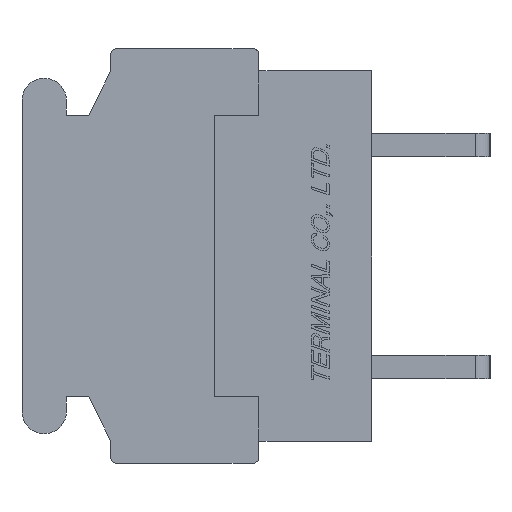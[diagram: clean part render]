
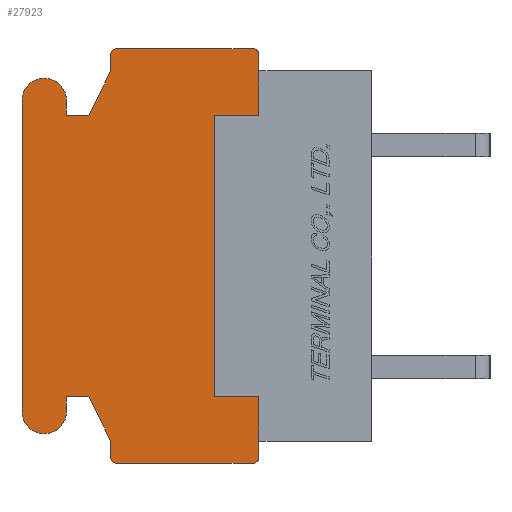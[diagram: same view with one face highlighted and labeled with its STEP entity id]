
A CAD part, left-side view. The second image highlights one B-rep face of the part: STEP entity #27923.
In plain terms, the highlighted planar face has unit normal (-1, 0, 0).
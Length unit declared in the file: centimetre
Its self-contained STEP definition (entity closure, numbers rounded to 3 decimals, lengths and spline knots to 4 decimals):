
#1438=CIRCLE('',#46985,0.02);
#1439=CIRCLE('',#46989,0.02);
#1440=CIRCLE('',#46992,0.02);
#1441=CIRCLE('',#46998,0.075);
#1442=CIRCLE('',#47001,0.075);
#1443=CIRCLE('',#47007,0.02);
#3882=VERTEX_POINT('',#43552);
#3883=VERTEX_POINT('',#43554);
#3884=VERTEX_POINT('',#43558);
#3885=VERTEX_POINT('',#43562);
#3886=VERTEX_POINT('',#43564);
#3887=VERTEX_POINT('',#43568);
#3888=VERTEX_POINT('',#43572);
#3889=VERTEX_POINT('',#43576);
#3890=VERTEX_POINT('',#43580);
#3891=VERTEX_POINT('',#43584);
#3892=VERTEX_POINT('',#43588);
#3893=VERTEX_POINT('',#43592);
#3894=VERTEX_POINT('',#43596);
#3895=VERTEX_POINT('',#43600);
#3896=VERTEX_POINT('',#43604);
#3897=VERTEX_POINT('',#43608);
#3898=VERTEX_POINT('',#43612);
#3899=VERTEX_POINT('',#43616);
#3900=VERTEX_POINT('',#43620);
#3901=VERTEX_POINT('',#43624);
#3902=VERTEX_POINT('',#43630);
#3903=VERTEX_POINT('',#43632);
#3904=VERTEX_POINT('',#43634);
#3905=VERTEX_POINT('',#43636);
#6900=VECTOR('',#34615,1.);
#6902=VECTOR('',#34618,1.);
#6906=VECTOR('',#34627,1.);
#6909=VECTOR('',#34635,1.);
#6911=VECTOR('',#34638,1.);
#6913=VECTOR('',#34641,1.);
#6915=VECTOR('',#34644,1.);
#6918=VECTOR('',#34652,1.);
#6921=VECTOR('',#34660,1.);
#6923=VECTOR('',#34663,1.);
#6925=VECTOR('',#34666,1.);
#6927=VECTOR('',#34669,1.);
#6929=VECTOR('',#34676,1.);
#6930=VECTOR('',#34678,1.);
#6931=VECTOR('',#34679,1.);
#6932=VECTOR('',#34680,1.);
#6933=VECTOR('',#34681,1.);
#6934=VECTOR('',#34682,1.);
#9996=LINE('',#43559,#6900);
#9998=LINE('',#43563,#6902);
#10002=LINE('',#43573,#6906);
#10005=LINE('',#43581,#6909);
#10007=LINE('',#43585,#6911);
#10009=LINE('',#43589,#6913);
#10011=LINE('',#43593,#6915);
#10014=LINE('',#43601,#6918);
#10017=LINE('',#43609,#6921);
#10019=LINE('',#43613,#6923);
#10021=LINE('',#43617,#6925);
#10023=LINE('',#43621,#6927);
#10025=LINE('',#43627,#6929);
#10026=LINE('',#43629,#6930);
#10027=LINE('',#43631,#6931);
#10028=LINE('',#43633,#6932);
#10029=LINE('',#43635,#6933);
#10030=LINE('',#43637,#6934);
#14120=EDGE_CURVE('',#3882,#3883,#1438,.T.);
#14123=EDGE_CURVE('',#3884,#3882,#9996,.T.);
#14125=EDGE_CURVE('',#3885,#3886,#9998,.T.);
#14128=EDGE_CURVE('',#3887,#3885,#1439,.T.);
#14130=EDGE_CURVE('',#3888,#3887,#10002,.T.);
#14132=EDGE_CURVE('',#3889,#3888,#1440,.T.);
#14134=EDGE_CURVE('',#3890,#3889,#10005,.T.);
#14136=EDGE_CURVE('',#3891,#3890,#10007,.T.);
#14138=EDGE_CURVE('',#3892,#3891,#10009,.T.);
#14140=EDGE_CURVE('',#3893,#3892,#10011,.T.);
#14142=EDGE_CURVE('',#3894,#3893,#1441,.T.);
#14144=EDGE_CURVE('',#3895,#3894,#10014,.T.);
#14146=EDGE_CURVE('',#3896,#3895,#1442,.T.);
#14148=EDGE_CURVE('',#3897,#3896,#10017,.T.);
#14150=EDGE_CURVE('',#3898,#3897,#10019,.T.);
#14152=EDGE_CURVE('',#3899,#3898,#10021,.T.);
#14154=EDGE_CURVE('',#3900,#3899,#10023,.T.);
#14156=EDGE_CURVE('',#3901,#3900,#1443,.T.);
#14157=EDGE_CURVE('',#3883,#3901,#10025,.T.);
#14158=EDGE_CURVE('',#3902,#3886,#10026,.T.);
#14159=EDGE_CURVE('',#3884,#3903,#10027,.T.);
#14160=EDGE_CURVE('',#3903,#3904,#10028,.T.);
#14161=EDGE_CURVE('',#3904,#3905,#10029,.T.);
#14162=EDGE_CURVE('',#3905,#3902,#10030,.T.);
#21974=ORIENTED_EDGE('',*,*,#14158,.T.);
#21975=ORIENTED_EDGE('',*,*,#14125,.F.);
#21976=ORIENTED_EDGE('',*,*,#14128,.F.);
#21977=ORIENTED_EDGE('',*,*,#14130,.F.);
#21978=ORIENTED_EDGE('',*,*,#14132,.F.);
#21979=ORIENTED_EDGE('',*,*,#14134,.F.);
#21980=ORIENTED_EDGE('',*,*,#14136,.F.);
#21981=ORIENTED_EDGE('',*,*,#14138,.F.);
#21982=ORIENTED_EDGE('',*,*,#14140,.F.);
#21983=ORIENTED_EDGE('',*,*,#14142,.F.);
#21984=ORIENTED_EDGE('',*,*,#14144,.F.);
#21985=ORIENTED_EDGE('',*,*,#14146,.F.);
#21986=ORIENTED_EDGE('',*,*,#14148,.F.);
#21987=ORIENTED_EDGE('',*,*,#14150,.F.);
#21988=ORIENTED_EDGE('',*,*,#14152,.F.);
#21989=ORIENTED_EDGE('',*,*,#14154,.F.);
#21990=ORIENTED_EDGE('',*,*,#14156,.F.);
#21991=ORIENTED_EDGE('',*,*,#14157,.F.);
#21992=ORIENTED_EDGE('',*,*,#14120,.F.);
#21993=ORIENTED_EDGE('',*,*,#14123,.F.);
#21994=ORIENTED_EDGE('',*,*,#14159,.T.);
#21995=ORIENTED_EDGE('',*,*,#14160,.T.);
#21996=ORIENTED_EDGE('',*,*,#14161,.T.);
#21997=ORIENTED_EDGE('',*,*,#14162,.T.);
#24609=EDGE_LOOP('',(#21974,#21975,#21976,#21977,#21978,#21979,#21980,#21981,
#21982,#21983,#21984,#21985,#21986,#21987,#21988,#21989,#21990,#21991,#21992,
#21993,#21994,#21995,#21996,#21997));
#26311=FACE_BOUND('',#24609,.T.);
#27923=ADVANCED_FACE('',(#26311),#29083,.F.);
#29083=PLANE('',#47009);
#34610=DIRECTION('',(1.,0.,0.));
#34611=DIRECTION('',(0.,0.,-0.02));
#34615=DIRECTION('',(0.,0.,-1.));
#34618=DIRECTION('',(0.,0.,-1.));
#34623=DIRECTION('',(1.,0.,0.));
#34624=DIRECTION('',(0.,0.,-0.02));
#34627=DIRECTION('',(0.,-1.,0.));
#34631=DIRECTION('',(1.,0.,0.));
#34632=DIRECTION('',(0.,0.,-0.02));
#34635=DIRECTION('',(0.,0.,1.));
#34638=DIRECTION('',(0.,-0.447,0.894));
#34641=DIRECTION('',(0.,-1.,0.));
#34644=DIRECTION('',(0.,0.,-1.));
#34648=DIRECTION('',(1.,0.,0.));
#34649=DIRECTION('',(0.,0.,-0.075));
#34652=DIRECTION('',(0.,0.,1.));
#34656=DIRECTION('',(1.,0.,0.));
#34657=DIRECTION('',(0.,0.,-0.075));
#34660=DIRECTION('',(0.,0.,-1.));
#34663=DIRECTION('',(0.,1.,0.));
#34666=DIRECTION('',(0.,0.447,0.894));
#34669=DIRECTION('',(0.,0.,1.));
#34673=DIRECTION('',(1.,0.,0.));
#34674=DIRECTION('',(0.,0.,-0.02));
#34676=DIRECTION('',(0.,1.,0.));
#34677=DIRECTION('',(1.,0.,0.));
#34678=DIRECTION('',(0.,0.,1.));
#34679=DIRECTION('',(0.,0.,1.));
#34680=DIRECTION('',(0.,1.,0.));
#34681=DIRECTION('',(0.,0.,1.));
#34682=DIRECTION('',(0.,-1.,0.));
#43552=CARTESIAN_POINT('',(-0.762,0.38,-0.68));
#43553=CARTESIAN_POINT('',(-0.762,0.4,-0.68));
#43554=CARTESIAN_POINT('',(-0.762,0.4,-0.7));
#43558=CARTESIAN_POINT('',(-0.762,0.38,-0.625));
#43559=CARTESIAN_POINT('',(-0.762,0.38,-0.625));
#43562=CARTESIAN_POINT('',(-0.762,0.38,0.68));
#43563=CARTESIAN_POINT('',(-0.762,0.38,0.68));
#43564=CARTESIAN_POINT('',(-0.762,0.38,0.625));
#43568=CARTESIAN_POINT('',(-0.762,0.4,0.7));
#43569=CARTESIAN_POINT('',(-0.762,0.4,0.68));
#43572=CARTESIAN_POINT('',(-0.762,0.86,0.7));
#43573=CARTESIAN_POINT('',(-0.762,0.86,0.7));
#43576=CARTESIAN_POINT('',(-0.762,0.88,0.68));
#43577=CARTESIAN_POINT('',(-0.762,0.86,0.68));
#43580=CARTESIAN_POINT('',(-0.762,0.88,0.625));
#43581=CARTESIAN_POINT('',(-0.762,0.88,0.625));
#43584=CARTESIAN_POINT('',(-0.762,0.955,0.475));
#43585=CARTESIAN_POINT('',(-0.762,0.955,0.475));
#43588=CARTESIAN_POINT('',(-0.762,1.03,0.475));
#43589=CARTESIAN_POINT('',(-0.762,1.03,0.475));
#43592=CARTESIAN_POINT('',(-0.762,1.03,0.525));
#43593=CARTESIAN_POINT('',(-0.762,1.03,0.525));
#43596=CARTESIAN_POINT('',(-0.762,1.18,0.525));
#43597=CARTESIAN_POINT('',(-0.762,1.105,0.525));
#43600=CARTESIAN_POINT('',(-0.762,1.18,-0.525));
#43601=CARTESIAN_POINT('',(-0.762,1.18,-0.525));
#43604=CARTESIAN_POINT('',(-0.762,1.03,-0.525));
#43605=CARTESIAN_POINT('',(-0.762,1.105,-0.525));
#43608=CARTESIAN_POINT('',(-0.762,1.03,-0.475));
#43609=CARTESIAN_POINT('',(-0.762,1.03,-0.475));
#43612=CARTESIAN_POINT('',(-0.762,0.955,-0.475));
#43613=CARTESIAN_POINT('',(-0.762,0.955,-0.475));
#43616=CARTESIAN_POINT('',(-0.762,0.88,-0.625));
#43617=CARTESIAN_POINT('',(-0.762,0.88,-0.625));
#43620=CARTESIAN_POINT('',(-0.762,0.88,-0.68));
#43621=CARTESIAN_POINT('',(-0.762,0.88,-0.68));
#43624=CARTESIAN_POINT('',(-0.762,0.86,-0.7));
#43625=CARTESIAN_POINT('',(-0.762,0.86,-0.68));
#43627=CARTESIAN_POINT('',(-0.762,0.4,-0.7));
#43628=CARTESIAN_POINT('',(-0.762,0.6059,0.));
#43629=CARTESIAN_POINT('',(-0.762,0.38,0.475));
#43630=CARTESIAN_POINT('',(-0.762,0.38,0.475));
#43631=CARTESIAN_POINT('',(-0.762,0.38,-0.625));
#43632=CARTESIAN_POINT('',(-0.762,0.38,-0.475));
#43633=CARTESIAN_POINT('',(-0.762,0.38,-0.475));
#43634=CARTESIAN_POINT('',(-0.762,0.53,-0.475));
#43635=CARTESIAN_POINT('',(-0.762,0.53,-0.475));
#43636=CARTESIAN_POINT('',(-0.762,0.53,0.475));
#43637=CARTESIAN_POINT('',(-0.762,0.53,0.475));
#46985=AXIS2_PLACEMENT_3D('',#43553,#34610,#34611);
#46989=AXIS2_PLACEMENT_3D('',#43569,#34623,#34624);
#46992=AXIS2_PLACEMENT_3D('',#43577,#34631,#34632);
#46998=AXIS2_PLACEMENT_3D('',#43597,#34648,#34649);
#47001=AXIS2_PLACEMENT_3D('',#43605,#34656,#34657);
#47007=AXIS2_PLACEMENT_3D('',#43625,#34673,#34674);
#47009=AXIS2_PLACEMENT_3D('',#43628,#34677,$);
